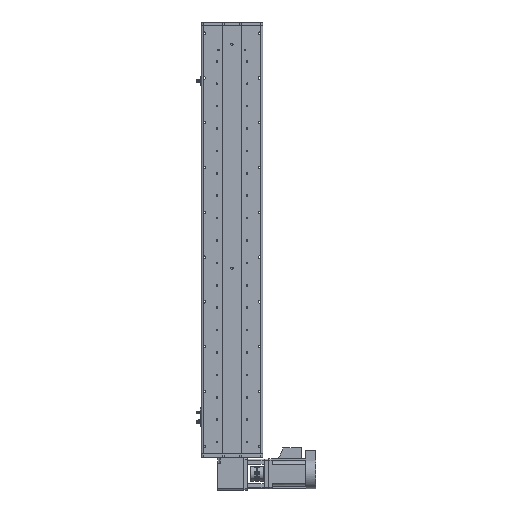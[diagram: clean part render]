
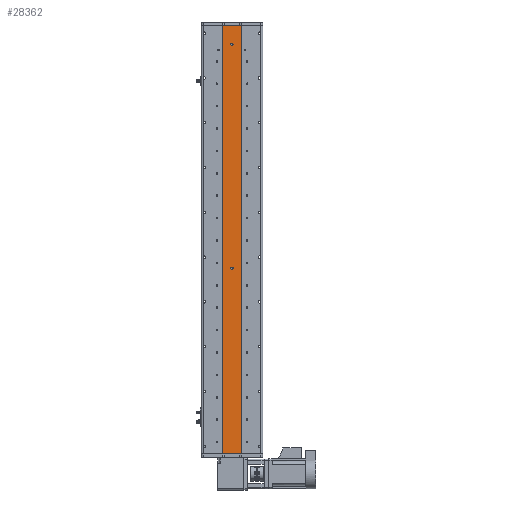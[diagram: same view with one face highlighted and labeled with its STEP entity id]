
A CAD part, front view. The second image highlights one B-rep face of the part: STEP entity #28362.
In plain terms, the highlighted planar face has unit normal (0, -1, 0).
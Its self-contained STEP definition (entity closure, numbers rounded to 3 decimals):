
#604 = VERTEX_POINT ( 'NONE', #12571 ) ;
#1699 = FACE_BOUND ( 'NONE', #24293, .T. ) ;
#2702 = LINE ( 'NONE', #26789, #21646 ) ;
#2964 = CARTESIAN_POINT ( 'NONE',  ( 0., 1., -76.5 ) ) ;
#5916 = CARTESIAN_POINT ( 'NONE',  ( -25., 1., -573.5 ) ) ;
#6000 = VERTEX_POINT ( 'NONE', #26811 ) ;
#6779 = LINE ( 'NONE', #14417, #25672 ) ;
#6802 = DIRECTION ( 'NONE',  ( 0., 0., -1. ) ) ;
#7039 = EDGE_CURVE ( 'NONE', #604, #31517, #9749, .T. ) ;
#7518 = CARTESIAN_POINT ( 'NONE',  ( 0., 1., -73.5 ) ) ;
#8075 = CARTESIAN_POINT ( 'NONE',  ( 0., 1., -76.5 ) ) ;
#9358 = CARTESIAN_POINT ( 'NONE',  ( 0., 1., 520.5 ) ) ;
#9421 = DIRECTION ( 'NONE',  ( 0., 0., -1. ) ) ;
#9749 = LINE ( 'NONE', #29081, #47501 ) ;
#10379 = EDGE_CURVE ( 'NONE', #38907, #30904, #23370, .T. ) ;
#11771 = FACE_OUTER_BOUND ( 'NONE', #35540, .T. ) ;
#11845 = DIRECTION ( 'NONE',  ( 0., 0., -1. ) ) ;
#11914 = CIRCLE ( 'NONE', #27968, 3. ) ;
#12571 = CARTESIAN_POINT ( 'NONE',  ( -25., 1., 573.5 ) ) ;
#12794 = CARTESIAN_POINT ( 'NONE',  ( 25., 1., 573.5 ) ) ;
#13798 = AXIS2_PLACEMENT_3D ( 'NONE', #39466, #16858, #43185 ) ;
#13859 = CARTESIAN_POINT ( 'NONE',  ( 25., 1., 573.5 ) ) ;
#14027 = DIRECTION ( 'NONE',  ( 0., 1., 0. ) ) ;
#14192 = EDGE_CURVE ( 'NONE', #36979, #6000, #11914, .T. ) ;
#14417 = CARTESIAN_POINT ( 'NONE',  ( 25., 1., 573.5 ) ) ;
#16858 = DIRECTION ( 'NONE',  ( 0., -1., 0. ) ) ;
#19454 = EDGE_CURVE ( 'NONE', #20489, #29170, #23748, .T. ) ;
#20325 = CIRCLE ( 'NONE', #13798, 3. ) ;
#20489 = VERTEX_POINT ( 'NONE', #26371 ) ;
#21646 = VECTOR ( 'NONE', #41800, 1000. ) ;
#21808 = DIRECTION ( 'NONE',  ( 0., -1., 0. ) ) ;
#21822 = ORIENTED_EDGE ( 'NONE', *, *, #14192, .F. ) ;
#23132 = AXIS2_PLACEMENT_3D ( 'NONE', #8075, #34455, #11845 ) ;
#23136 = ORIENTED_EDGE ( 'NONE', *, *, #31410, .F. ) ;
#23370 = LINE ( 'NONE', #28223, #33403 ) ;
#23748 = CIRCLE ( 'NONE', #23132, 3. ) ;
#23966 = CIRCLE ( 'NONE', #40849, 3. ) ;
#24191 = ORIENTED_EDGE ( 'NONE', *, *, #19454, .F. ) ;
#24293 = EDGE_LOOP ( 'NONE', ( #21822, #23136 ) ) ;
#24481 = CARTESIAN_POINT ( 'NONE',  ( 25., 1., -573.5 ) ) ;
#25272 = PLANE ( 'NONE',  #34821 ) ;
#25672 = VECTOR ( 'NONE', #25964, 1000. ) ;
#25964 = DIRECTION ( 'NONE',  ( 1., 0., 0. ) ) ;
#26371 = CARTESIAN_POINT ( 'NONE',  ( 0., 1., -79.5 ) ) ;
#26547 = ORIENTED_EDGE ( 'NONE', *, *, #34954, .F. ) ;
#26789 = CARTESIAN_POINT ( 'NONE',  ( 25., 1., -573.5 ) ) ;
#26811 = CARTESIAN_POINT ( 'NONE',  ( 0., 1., 526.5 ) ) ;
#27481 = ORIENTED_EDGE ( 'NONE', *, *, #34522, .T. ) ;
#27968 = AXIS2_PLACEMENT_3D ( 'NONE', #44395, #21808, #48173 ) ;
#28223 = CARTESIAN_POINT ( 'NONE',  ( 25., 1., 573.5 ) ) ;
#28362 = ADVANCED_FACE ( 'NONE', ( #1699, #40730, #11771 ), #25272, .F. ) ;
#28469 = ORIENTED_EDGE ( 'NONE', *, *, #10379, .F. ) ;
#28760 = DIRECTION ( 'NONE',  ( 0., 0., -1. ) ) ;
#29081 = CARTESIAN_POINT ( 'NONE',  ( -25., 1., 573.5 ) ) ;
#29170 = VERTEX_POINT ( 'NONE', #7518 ) ;
#29386 = DIRECTION ( 'NONE',  ( 0., -1., 0. ) ) ;
#29574 = ORIENTED_EDGE ( 'NONE', *, *, #43696, .F. ) ;
#30803 = ORIENTED_EDGE ( 'NONE', *, *, #7039, .T. ) ;
#30904 = VERTEX_POINT ( 'NONE', #24481 ) ;
#31408 = EDGE_LOOP ( 'NONE', ( #24191, #26547 ) ) ;
#31410 = EDGE_CURVE ( 'NONE', #6000, #36979, #20325, .T. ) ;
#31517 = VERTEX_POINT ( 'NONE', #5916 ) ;
#33403 = VECTOR ( 'NONE', #9421, 1000. ) ;
#34455 = DIRECTION ( 'NONE',  ( 0., -1., 0. ) ) ;
#34522 = EDGE_CURVE ( 'NONE', #31517, #30904, #2702, .T. ) ;
#34821 = AXIS2_PLACEMENT_3D ( 'NONE', #13859, #14027, #40457 ) ;
#34954 = EDGE_CURVE ( 'NONE', #29170, #20489, #23966, .T. ) ;
#35540 = EDGE_LOOP ( 'NONE', ( #27481, #28469, #29574, #30803 ) ) ;
#36979 = VERTEX_POINT ( 'NONE', #9358 ) ;
#38907 = VERTEX_POINT ( 'NONE', #12794 ) ;
#39466 = CARTESIAN_POINT ( 'NONE',  ( 0., 1., 523.5 ) ) ;
#40457 = DIRECTION ( 'NONE',  ( 0., 0., 1. ) ) ;
#40730 = FACE_BOUND ( 'NONE', #31408, .T. ) ;
#40849 = AXIS2_PLACEMENT_3D ( 'NONE', #2964, #29386, #6802 ) ;
#41800 = DIRECTION ( 'NONE',  ( 1., 0., 0. ) ) ;
#43185 = DIRECTION ( 'NONE',  ( 0., 0., -1. ) ) ;
#43696 = EDGE_CURVE ( 'NONE', #604, #38907, #6779, .T. ) ;
#44395 = CARTESIAN_POINT ( 'NONE',  ( 0., 1., 523.5 ) ) ;
#47501 = VECTOR ( 'NONE', #28760, 1000. ) ;
#48173 = DIRECTION ( 'NONE',  ( 0., 0., -1. ) ) ;
